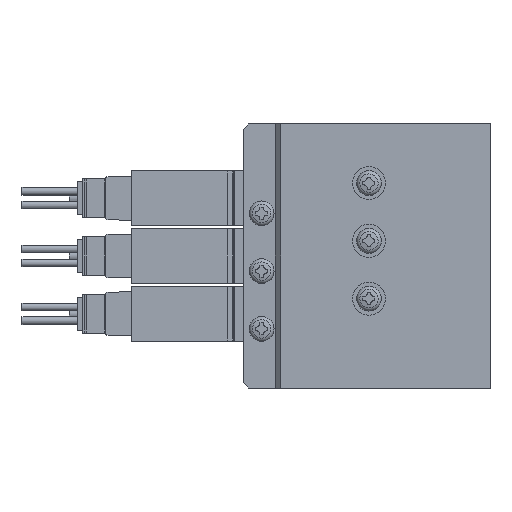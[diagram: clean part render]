
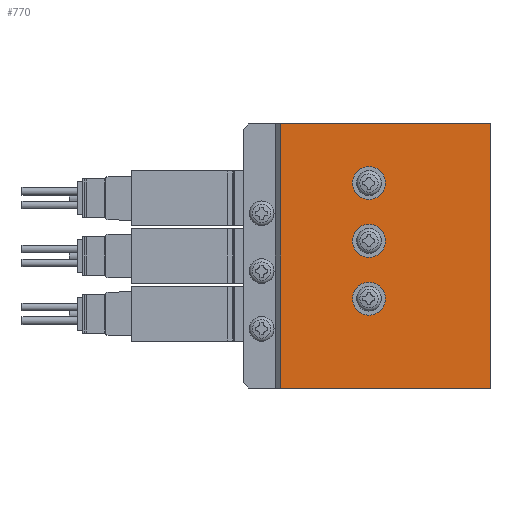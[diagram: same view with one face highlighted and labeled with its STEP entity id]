
A CAD part, left-side view. The second image highlights one B-rep face of the part: STEP entity #770.
In plain terms, the highlighted planar face has unit normal (-1, 0, 0) as drawn and (1, 0, 0) by its records, which use the part's own axes.
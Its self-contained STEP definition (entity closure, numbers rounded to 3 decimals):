
#770=ADVANCED_FACE('',(#1760,#1761,#1762,#1763),#1764,.F.);
#1760=FACE_OUTER_BOUND('',#3023,.T.);
#1761=FACE_BOUND('',#3024,.T.);
#1762=FACE_BOUND('',#3025,.T.);
#1763=FACE_BOUND('',#3026,.T.);
#1764=PLANE('',#3027);
#3023=EDGE_LOOP('',(#6491,#6492,#6493,#6494));
#3024=EDGE_LOOP('',(#6495));
#3025=EDGE_LOOP('',(#6496));
#3026=EDGE_LOOP('',(#6497));
#3027=AXIS2_PLACEMENT_3D('',#6498,#6499,#6500);
#6491=ORIENTED_EDGE('',*,*,#8657,.T.);
#6492=ORIENTED_EDGE('',*,*,#8719,.F.);
#6493=ORIENTED_EDGE('',*,*,#8720,.F.);
#6494=ORIENTED_EDGE('',*,*,#8721,.T.);
#6495=ORIENTED_EDGE('',*,*,#8722,.F.);
#6496=ORIENTED_EDGE('',*,*,#8723,.F.);
#6497=ORIENTED_EDGE('',*,*,#8724,.F.);
#6498=CARTESIAN_POINT('',(19.0,0.0,24.0));
#6499=DIRECTION('',(-1.0,0.0,0.0));
#6500=DIRECTION('',(0.0,0.0,1.0));
#8657=EDGE_CURVE('',#10620,#10618,#10621,.T.);
#8719=EDGE_CURVE('',#10737,#10618,#10738,.T.);
#8720=EDGE_CURVE('',#10739,#10737,#10740,.T.);
#8721=EDGE_CURVE('',#10739,#10620,#10741,.T.);
#8722=EDGE_CURVE('',#10742,#10742,#10743,.T.);
#8723=EDGE_CURVE('',#10744,#10744,#10745,.T.);
#8724=EDGE_CURVE('',#10746,#10746,#10747,.T.);
#10618=VERTEX_POINT('',#13884);
#10620=VERTEX_POINT('',#13887);
#10621=LINE('',#13888,#13889);
#10737=VERTEX_POINT('',#14193);
#10738=LINE('',#14194,#14195);
#10739=VERTEX_POINT('',#14196);
#10740=LINE('',#14197,#14198);
#10741=LINE('',#14199,#14200);
#10742=VERTEX_POINT('',#14201);
#10743=CIRCLE('',#14202,3.0);
#10744=VERTEX_POINT('',#14203);
#10745=CIRCLE('',#14204,3.0);
#10746=VERTEX_POINT('',#14205);
#10747=CIRCLE('',#14206,3.0);
#13884=CARTESIAN_POINT('',(19.0,38.0,-24.0));
#13887=CARTESIAN_POINT('',(19.0,0.0,-24.0));
#13888=CARTESIAN_POINT('',(19.0,0.0,-24.0));
#13889=VECTOR('',#16578,1.0);
#14193=CARTESIAN_POINT('',(19.0,38.0,24.0));
#14194=CARTESIAN_POINT('',(19.0,38.0,24.0));
#14195=VECTOR('',#16679,1.0);
#14196=CARTESIAN_POINT('',(19.0,0.0,24.0));
#14197=CARTESIAN_POINT('',(19.0,0.0,24.0));
#14198=VECTOR('',#16680,1.0);
#14199=CARTESIAN_POINT('',(19.0,0.0,24.0));
#14200=VECTOR('',#16681,1.0);
#14201=CARTESIAN_POINT('',(19.0,22.0,4.75));
#14202=AXIS2_PLACEMENT_3D('',#16682,#16683,#16684);
#14203=CARTESIAN_POINT('',(19.0,22.0,-16.25));
#14204=AXIS2_PLACEMENT_3D('',#16685,#16686,#16687);
#14205=CARTESIAN_POINT('',(19.0,22.0,-5.75));
#14206=AXIS2_PLACEMENT_3D('',#16688,#16689,#16690);
#16578=DIRECTION('',(0.0,1.0,0.0));
#16679=DIRECTION('',(0.0,0.0,-1.0));
#16680=DIRECTION('',(0.0,1.0,0.0));
#16681=DIRECTION('',(0.0,0.0,-1.0));
#16682=CARTESIAN_POINT('',(19.0,22.0,7.75));
#16683=DIRECTION('',(1.0,0.0,0.0));
#16684=DIRECTION('',(0.0,0.0,-1.0));
#16685=CARTESIAN_POINT('',(19.0,22.0,-13.25));
#16686=DIRECTION('',(1.0,0.0,0.0));
#16687=DIRECTION('',(0.0,0.0,-1.0));
#16688=CARTESIAN_POINT('',(19.0,22.0,-2.75));
#16689=DIRECTION('',(1.0,0.0,0.0));
#16690=DIRECTION('',(0.0,0.0,-1.0));
